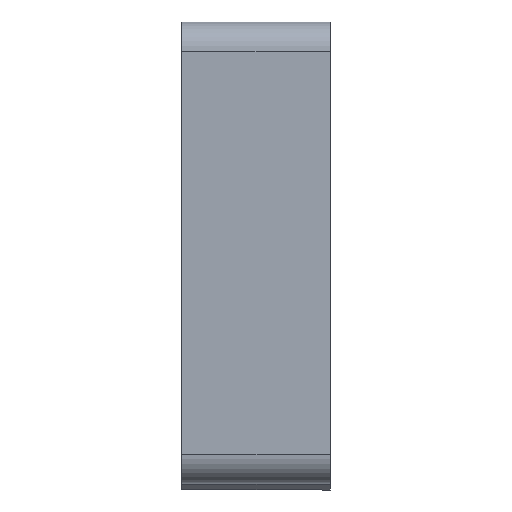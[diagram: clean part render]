
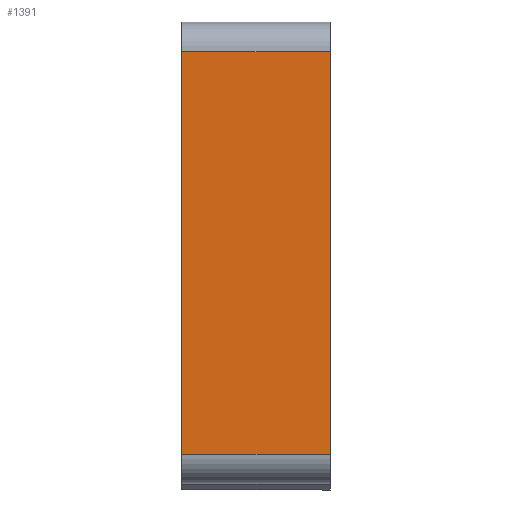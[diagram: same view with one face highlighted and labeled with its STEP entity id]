
A CAD part, top view. The second image highlights one B-rep face of the part: STEP entity #1391.
In plain terms, the highlighted planar face has unit normal (0, 0, 1).
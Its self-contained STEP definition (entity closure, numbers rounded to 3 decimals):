
#6 = VERTEX_POINT ( 'NONE', #7 ) ;
#7 = CARTESIAN_POINT ( 'NONE',  ( -25., 45.5, 15.5 ) ) ;
#35 = VERTEX_POINT ( 'NONE', #101 ) ;
#38 = CARTESIAN_POINT ( 'NONE',  ( 0., 45.5, 15.5 ) ) ;
#78 = VERTEX_POINT ( 'NONE', #38 ) ;
#79 = VERTEX_POINT ( 'NONE', #105 ) ;
#101 = CARTESIAN_POINT ( 'NONE',  ( -25., -22.5, 15.5 ) ) ;
#105 = CARTESIAN_POINT ( 'NONE',  ( 0., -22.5, 15.5 ) ) ;
#290 = CARTESIAN_POINT ( 'NONE',  ( 0., 45.5, 15.5 ) ) ;
#291 = PLANE ( 'NONE',  #1613 ) ;
#311 = DIRECTION ( 'NONE',  ( 0., 0., -1. ) ) ;
#312 = DIRECTION ( 'NONE',  ( 1., 0., 0. ) ) ;
#548 = DIRECTION ( 'NONE',  ( 0., -1., 0. ) ) ;
#556 = CARTESIAN_POINT ( 'NONE',  ( 0., 45.5, 15.5 ) ) ;
#568 = CARTESIAN_POINT ( 'NONE',  ( -25., 45.5, 15.5 ) ) ;
#573 = DIRECTION ( 'NONE',  ( 0., -1., 0. ) ) ;
#604 = CARTESIAN_POINT ( 'NONE',  ( 0., 45.5, 15.5 ) ) ;
#605 = DIRECTION ( 'NONE',  ( -1., 0., 0. ) ) ;
#608 = CARTESIAN_POINT ( 'NONE',  ( 0., -22.5, 15.5 ) ) ;
#609 = DIRECTION ( 'NONE',  ( -1., 0., 0. ) ) ;
#872 = LINE ( 'NONE', #608, #899 ) ;
#885 = VECTOR ( 'NONE', #605, 1000. ) ;
#899 = VECTOR ( 'NONE', #609, 1000. ) ;
#910 = LINE ( 'NONE', #604, #885 ) ;
#911 = VECTOR ( 'NONE', #573, 1000. ) ;
#928 = LINE ( 'NONE', #568, #911 ) ;
#954 = FACE_OUTER_BOUND ( 'NONE', #1286, .T. ) ;
#1064 = VECTOR ( 'NONE', #548, 1000. ) ;
#1071 = LINE ( 'NONE', #556, #1064 ) ;
#1093 = ORIENTED_EDGE ( 'NONE', *, *, #1508, .F. ) ;
#1114 = ORIENTED_EDGE ( 'NONE', *, *, #1549, .T. ) ;
#1262 = ORIENTED_EDGE ( 'NONE', *, *, #1556, .T. ) ;
#1267 = ORIENTED_EDGE ( 'NONE', *, *, #1557, .F. ) ;
#1286 = EDGE_LOOP ( 'NONE', ( #1114, #1267, #1093, #1262 ) ) ;
#1391 = ADVANCED_FACE ( 'NONE', ( #954 ), #291, .F. ) ;
#1508 = EDGE_CURVE ( 'NONE', #78, #79, #1071, .T. ) ;
#1549 = EDGE_CURVE ( 'NONE', #6, #35, #928, .T. ) ;
#1556 = EDGE_CURVE ( 'NONE', #78, #6, #910, .T. ) ;
#1557 = EDGE_CURVE ( 'NONE', #79, #35, #872, .T. ) ;
#1613 = AXIS2_PLACEMENT_3D ( 'NONE', #290, #311, #312 ) ;
